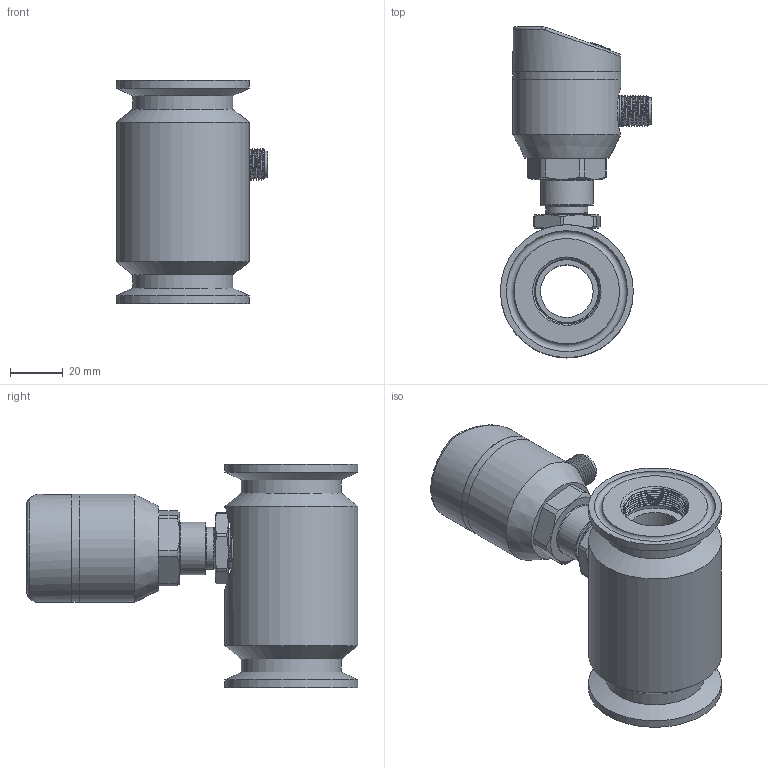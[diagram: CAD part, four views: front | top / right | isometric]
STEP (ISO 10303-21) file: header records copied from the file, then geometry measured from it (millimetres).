
FILE_DESCRIPTION( (''), '2;1');
FILE_NAME( 'QTKA_DN20_tri-clamp.step', '2024-01-11T14:16:29+08:00', (''), (''), '', '', '');
FILE_SCHEMA (('AUTOMOTIVE_DESIGN { 1 0 10303 214 3 1 1 1 }'));
Length unit declared in the file: millimetre
Products named in the file (1): QTKA DN20_tri-clamp
Bounding box: 57.43 x 126.05 x 85 mm (x, y, z)
Volume: 155253.9 mm3; surface area: 50840.3 mm2
Topology: 5 solids, 7 shells, 452 faces, 1083 edges, 687 vertices
Faces by surface type: plane 155, cylinder 146, cone 54, bspline 50, torus 41, sphere 6
Full cylindrical faces by diameter (mm): 1 x5, 2.7 x4, 8.4 x1, 9.7 x1, 9.8 x1, 10.1 x1, 11.6 x1, 12 x1, 15.9 x1, 17 x1, 20 x2, 23 x3, 26 x6, 26.1 x1, 37 x1, 38 x2, 41 x3, 50.5 x3
Entity records: 37705 total; most frequent: CARTESIAN_POINT 26472, DIRECTION 1960, ORIENTED_EDGE 1946, EDGE_CURVE 973, AXIS2_PLACEMENT_3D 791, VERTEX_POINT 644, EDGE_LOOP 567, ADVANCED_FACE 450
